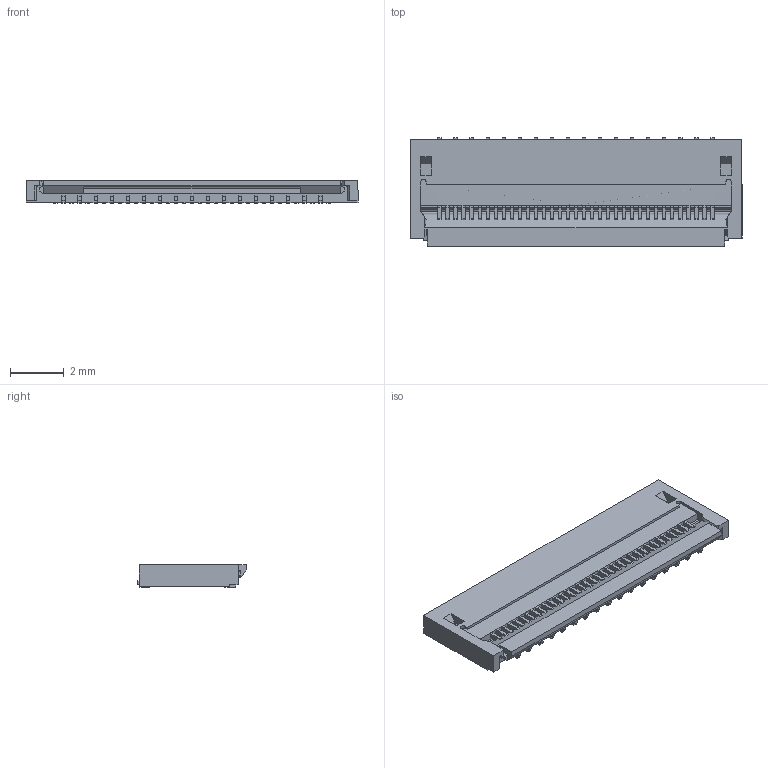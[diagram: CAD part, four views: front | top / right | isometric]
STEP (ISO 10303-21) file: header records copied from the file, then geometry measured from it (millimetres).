
FILE_DESCRIPTION (( 'STEP AP214' ), '1' );
FILE_NAME ('00_6293_035_005.STEP', '2017-09-22T05:51:55', ( 'Asmin' ), ( '' ), 'SwSTEP 2.0', 'SolidWorks 2014', '' );
FILE_SCHEMA (( 'AUTOMOTIVE_DESIGN' ));
Length unit declared in the file: millimetre
Products named in the file (1): 00_6293_035_005
Bounding box: 12.4 x 4.05 x 0.85 mm (x, y, z)
Volume: 30.4 mm3; surface area: 182.7 mm2
Topology: 1 solids, 1 shells, 927 faces, 2804 edges, 1845 vertices
Faces by surface type: plane 779, cylinder 148
Entity records: 41883 total; most frequent: CARTESIAN_POINT 7195, ORIENTED_EDGE 5608, DIRECTION 4410, EDGE_CURVE 2804, VECTOR 1986, LINE 1986, VERTEX_POINT 1845, AXIS2_PLACEMENT_3D 1212
